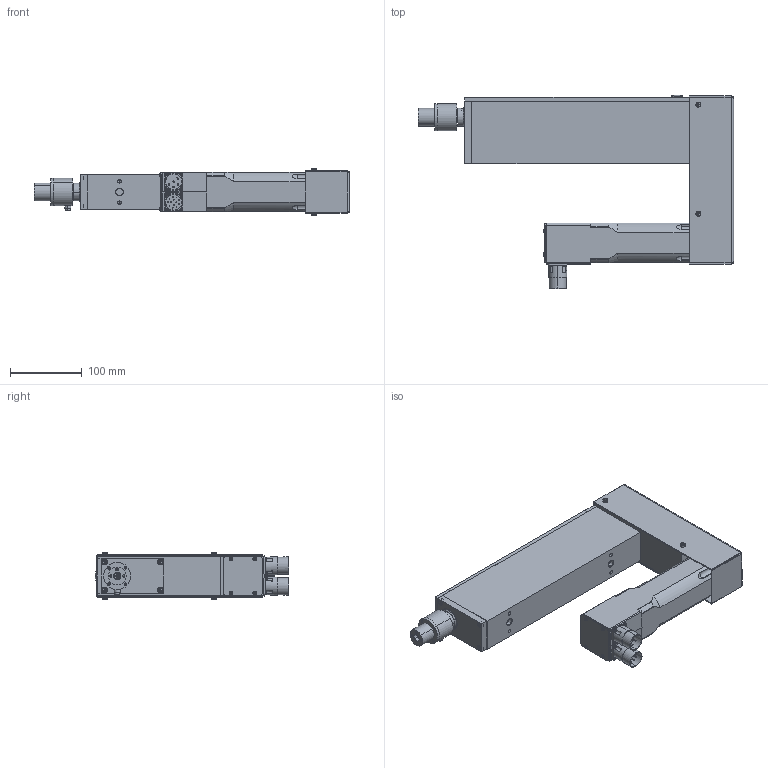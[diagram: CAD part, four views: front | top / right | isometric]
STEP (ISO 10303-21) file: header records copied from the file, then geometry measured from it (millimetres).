
FILE_DESCRIPTION (( 'STEP AP203' ), '1' );
FILE_NAME ('KM PR5PD015-020-030H.STEP', '2021-03-04T10:19:57', ( '' ), ( '' ), 'SwSTEP 2.0', 'SolidWorks 2016', '' );
FILE_SCHEMA (( 'CONFIG_CONTROL_DESIGN' ));
Products named in the file (2): KM PR5PD015-020-030H
Bounding box: 439 x 269.51 x 64.6 mm (x, y, z)
Volume: 2121787.2 mm3; surface area: 449000.9 mm2
Topology: 28 solids, 40 shells, 2137 faces, 4974 edges, 2938 vertices
Faces by surface type: plane 983, cylinder 592, cone 414, bspline 95, torus 40, sphere 13
Entity records: 63460 total; most frequent: CARTESIAN_POINT 15839, DIRECTION 10018, ORIENTED_EDGE 9604, EDGE_CURVE 4802, AXIS2_PLACEMENT_3D 3837, VERTEX_POINT 2925, EDGE_LOOP 2459, VECTOR 2344
